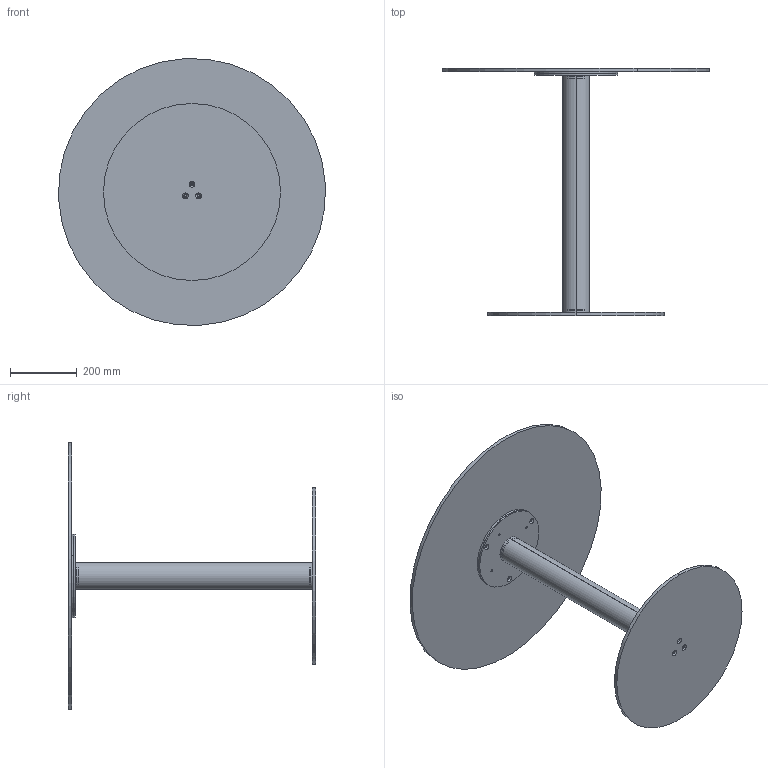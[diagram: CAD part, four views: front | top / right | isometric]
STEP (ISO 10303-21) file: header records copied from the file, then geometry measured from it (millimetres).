
FILE_DESCRIPTION (( 'STEP AP203' ), '1' );
FILE_NAME ('CB25G.STEP', '2024-08-08T08:25:48', ( '' ), ( '' ), 'SwSTEP 2.0', 'SolidWorks 2022', '' );
FILE_SCHEMA (( 'CONFIG_CONTROL_DESIGN' ));
Length unit declared in the file: millimetre
Products named in the file (7): CXXCRXX-00-Piani Rotondi in Cristallo CON PIASTRA_C02P PIANO CRISTALLO D.80cm; CB25G; CBS000000BAS-00-BISTRO PIASTRA INFERIORE_D.530; C1XCRMXX-00-piani Rotondi Cristallo_C02 D.80cm; CBS200000PST-00-CONTROPIASTRA PER PIASTRA D.25cm GREZZO_250; CBS000000COL-00-CILINDRO BISTRO COLONNA H75; P0000003-00-STAFFA DI FISSAGGIO DIAMETRO 250_P0000003-250mm normale
Assembly tree (6 placements, depth 3):
  CB25G
    CBS000000BAS-00-BISTRO PIASTRA INFERIORE_D.530
    CBS200000PST-00-CONTROPIASTRA PER PIASTRA D.25cm GREZZO_250
    CBS000000COL-00-CILINDRO BISTRO COLONNA H75
    CXXCRXX-00-Piani Rotondi in Cristallo CON PIASTRA_C02P PIANO CRISTALLO D.80cm
      C1XCRMXX-00-piani Rotondi Cristallo_C02 D.80cm
      P0000003-00-STAFFA DI FISSAGGIO DIAMETRO 250_P0000003-250mm normale
Bounding box: 799.05 x 741 x 799.05 mm (x, y, z)
Volume: 8155858.8 mm3; surface area: 2063426.5 mm2
Topology: 7 solids, 7 shells, 104 faces, 244 edges, 154 vertices
Faces by surface type: cylinder 64, cone 26, plane 14
Entity records: 3875 total; most frequent: DIRECTION 626, CARTESIAN_POINT 512, ORIENTED_EDGE 488, AXIS2_PLACEMENT_3D 268, EDGE_CURVE 244, VERTEX_POINT 154, CIRCLE 154, EDGE_LOOP 154
